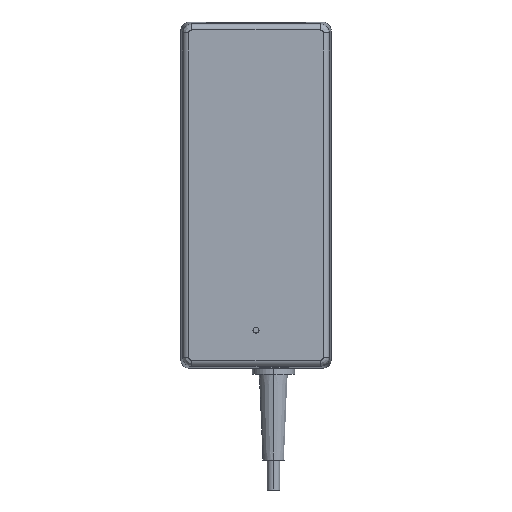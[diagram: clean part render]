
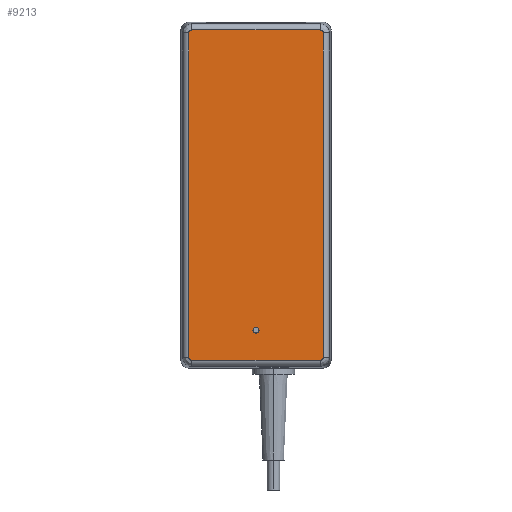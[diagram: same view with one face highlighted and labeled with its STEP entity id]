
A CAD part, front view. The second image highlights one B-rep face of the part: STEP entity #9213.
In plain terms, the highlighted planar face has unit normal (0, -1, 0).
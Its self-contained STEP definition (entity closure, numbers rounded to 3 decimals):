
#15=CARTESIAN_POINT('',(22.35,-14.5,53.851));
#16=CARTESIAN_POINT('',(22.35,-14.5,53.927));
#17=CARTESIAN_POINT('',(22.333,-14.5,54.074));
#18=CARTESIAN_POINT('',(22.259,-14.5,54.288));
#19=CARTESIAN_POINT('',(22.139,-14.5,54.479));
#20=CARTESIAN_POINT('',(21.979,-14.5,54.639));
#21=CARTESIAN_POINT('',(21.788,-14.5,54.759));
#22=CARTESIAN_POINT('',(21.574,-14.5,54.833));
#23=CARTESIAN_POINT('',(21.427,-14.5,54.85));
#24=CARTESIAN_POINT('',(21.351,-14.5,54.85));
#30=DIRECTION('',(0.,0.,1.));
#31=VECTOR('',#30,107.703);
#32=CARTESIAN_POINT('',(22.35,-14.5,-53.851));
#33=LINE('',#32,#31);
#37=CARTESIAN_POINT('',(21.351,-14.5,-54.85));
#38=CARTESIAN_POINT('',(21.427,-14.5,-54.85));
#39=CARTESIAN_POINT('',(21.574,-14.5,-54.833));
#40=CARTESIAN_POINT('',(21.788,-14.5,-54.759));
#41=CARTESIAN_POINT('',(21.979,-14.5,-54.639));
#42=CARTESIAN_POINT('',(22.139,-14.5,-54.479));
#43=CARTESIAN_POINT('',(22.259,-14.5,-54.288));
#44=CARTESIAN_POINT('',(22.333,-14.5,-54.074));
#45=CARTESIAN_POINT('',(22.35,-14.5,-53.927));
#46=CARTESIAN_POINT('',(22.35,-14.5,-53.851));
#51=DIRECTION('',(1.,0.,0.));
#52=VECTOR('',#51,42.703);
#53=CARTESIAN_POINT('',(-21.351,-14.5,-54.85));
#54=LINE('',#53,#52);
#58=CARTESIAN_POINT('',(-22.35,-14.5,-53.851));
#59=CARTESIAN_POINT('',(-22.35,-14.5,-53.927));
#60=CARTESIAN_POINT('',(-22.333,-14.5,-54.074));
#61=CARTESIAN_POINT('',(-22.259,-14.5,-54.288));
#62=CARTESIAN_POINT('',(-22.139,-14.5,-54.479));
#63=CARTESIAN_POINT('',(-21.979,-14.5,-54.639));
#64=CARTESIAN_POINT('',(-21.788,-14.5,-54.759));
#65=CARTESIAN_POINT('',(-21.574,-14.5,-54.833));
#66=CARTESIAN_POINT('',(-21.427,-14.5,-54.85));
#67=CARTESIAN_POINT('',(-21.351,-14.5,-54.85));
#72=DIRECTION('',(0.,0.,-1.));
#73=VECTOR('',#72,107.703);
#74=CARTESIAN_POINT('',(-22.35,-14.5,53.851));
#75=LINE('',#74,#73);
#79=CARTESIAN_POINT('',(-21.351,-14.5,54.85));
#80=CARTESIAN_POINT('',(-21.427,-14.5,54.85));
#81=CARTESIAN_POINT('',(-21.574,-14.5,54.833));
#82=CARTESIAN_POINT('',(-21.788,-14.5,54.759));
#83=CARTESIAN_POINT('',(-21.979,-14.5,54.639));
#84=CARTESIAN_POINT('',(-22.139,-14.5,54.479));
#85=CARTESIAN_POINT('',(-22.259,-14.5,54.288));
#86=CARTESIAN_POINT('',(-22.333,-14.5,54.074));
#87=CARTESIAN_POINT('',(-22.35,-14.5,53.927));
#88=CARTESIAN_POINT('',(-22.35,-14.5,53.851));
#93=DIRECTION('',(-1.,0.,0.));
#94=VECTOR('',#93,42.703);
#95=CARTESIAN_POINT('',(21.351,-14.5,54.85));
#96=LINE('',#95,#94);
#100=CARTESIAN_POINT('',(0.,-14.5,-44.85));
#101=DIRECTION('',(0.,1.,0.));
#102=DIRECTION('',(0.,0.,-1.));
#103=AXIS2_PLACEMENT_3D('',#100,#101,#102);
#108=CARTESIAN_POINT('',(0.,-14.5,-44.85));
#109=DIRECTION('',(0.,1.,0.));
#110=DIRECTION('',(0.,0.,1.));
#111=AXIS2_PLACEMENT_3D('',#108,#109,#110);
#8022=VERTEX_POINT('',#15);
#8023=VERTEX_POINT('',#24);
#8026=CARTESIAN_POINT('',(-21.351,-14.5,
54.85));
#8027=VERTEX_POINT('',#8026);
#8030=VERTEX_POINT('',#88);
#8032=CARTESIAN_POINT('',(-22.35,-14.5,
-53.851));
#8033=VERTEX_POINT('',#8032);
#8036=VERTEX_POINT('',#67);
#8038=CARTESIAN_POINT('',(21.351,-14.5,
-54.85));
#8039=VERTEX_POINT('',#8038);
#8042=VERTEX_POINT('',#46);
#8992=CARTESIAN_POINT('',(0.,-14.5,-45.85));
#8993=CARTESIAN_POINT('',(0.,-14.5,-43.85));
#8994=VERTEX_POINT('',#8992);
#8995=VERTEX_POINT('',#8993);
#9184=CARTESIAN_POINT('',(0.,-14.5,0.));
#9185=DIRECTION('',(0.,1.,0.));
#9186=DIRECTION('',(1.,0.,0.));
#9187=AXIS2_PLACEMENT_3D('',#9184,#9185,#9186);
#9188=PLANE('',#9187);
#9190=ORIENTED_EDGE('',*,*,#9189,.F.);
#9192=ORIENTED_EDGE('',*,*,#9191,.F.);
#9194=ORIENTED_EDGE('',*,*,#9193,.F.);
#9196=ORIENTED_EDGE('',*,*,#9195,.F.);
#9198=ORIENTED_EDGE('',*,*,#9197,.F.);
#9200=ORIENTED_EDGE('',*,*,#9199,.F.);
#9202=ORIENTED_EDGE('',*,*,#9201,.F.);
#9204=ORIENTED_EDGE('',*,*,#9203,.F.);
#9205=EDGE_LOOP('',(#9190,#9192,#9194,#9196,#9198,#9200,#9202,#9204));
#9206=FACE_OUTER_BOUND('',#9205,.F.);
#9208=ORIENTED_EDGE('',*,*,#9207,.F.);
#9210=ORIENTED_EDGE('',*,*,#9209,.F.);
#9211=EDGE_LOOP('',(#9208,#9210));
#9212=FACE_BOUND('',#9211,.F.);
#25=B_SPLINE_CURVE_WITH_KNOTS('',3,(#15,#16,#17,#18,#19,#20,#21,#22,#23,#24),
.UNSPECIFIED.,.F.,.F.,(4,1,1,1,1,1,1,4),(0.,0.143,
0.286,0.429,0.571,0.714,
0.857,1.),.UNSPECIFIED.);
#47=B_SPLINE_CURVE_WITH_KNOTS('',3,(#37,#38,#39,#40,#41,#42,#43,#44,#45,#46),
.UNSPECIFIED.,.F.,.F.,(4,1,1,1,1,1,1,4),(0.,0.143,
0.286,0.429,0.571,0.714,
0.857,1.),.UNSPECIFIED.);
#68=B_SPLINE_CURVE_WITH_KNOTS('',3,(#58,#59,#60,#61,#62,#63,#64,#65,#66,#67),
.UNSPECIFIED.,.F.,.F.,(4,1,1,1,1,1,1,4),(0.,0.143,
0.286,0.429,0.571,0.714,
0.857,1.),.UNSPECIFIED.);
#89=B_SPLINE_CURVE_WITH_KNOTS('',3,(#79,#80,#81,#82,#83,#84,#85,#86,#87,#88),
.UNSPECIFIED.,.F.,.F.,(4,1,1,1,1,1,1,4),(0.,0.143,
0.286,0.429,0.571,0.714,
0.857,1.),.UNSPECIFIED.);
#104=CIRCLE('',#103,1.);
#112=CIRCLE('',#111,1.);
#9189=EDGE_CURVE('',#8022,#8023,#25,.T.);
#9191=EDGE_CURVE('',#8042,#8022,#33,.T.);
#9193=EDGE_CURVE('',#8039,#8042,#47,.T.);
#9195=EDGE_CURVE('',#8036,#8039,#54,.T.);
#9197=EDGE_CURVE('',#8033,#8036,#68,.T.);
#9199=EDGE_CURVE('',#8030,#8033,#75,.T.);
#9201=EDGE_CURVE('',#8027,#8030,#89,.T.);
#9203=EDGE_CURVE('',#8023,#8027,#96,.T.);
#9207=EDGE_CURVE('',#8994,#8995,#104,.T.);
#9209=EDGE_CURVE('',#8995,#8994,#112,.T.);
#9213=ADVANCED_FACE('',(#9206,#9212),#9188,.F.);
